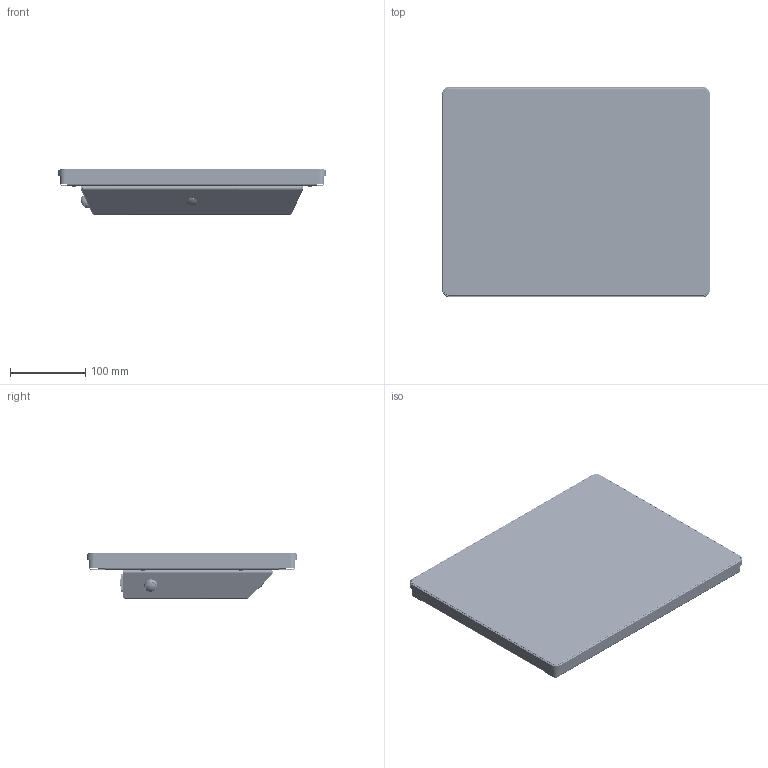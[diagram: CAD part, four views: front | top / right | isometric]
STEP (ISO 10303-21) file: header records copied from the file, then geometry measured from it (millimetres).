
FILE_DESCRIPTION (( 'STEP AP203' ), '1' );
FILE_NAME ('V150S-00 Panel PC.STEP', '2026-07-31T08:47:37', ( '' ), ( '' ), 'SwSTEP 2.0', 'SolidWorks 2025', '' );
FILE_SCHEMA (( 'CONFIG_CONTROL_DESIGN' ));
Length unit declared in the file: millimetre
Products named in the file (31): 220V IEC snap-in input socket 539-2017; SSD-02 Bracket hoog; V-serie - M3 x 4 - Z --- 3N_DIN 967 - M3 x 4 - Z --- 3N; TEST BS-M4-8 RVS blinde inpersafstandsteun; FH-M4-12-ZI Inpersdraadeind; SO-3,5M3-6-ZI Inpersafstandsteun; Meanwell IRM-90-12ST; V-UNIS-01 Backcover assembly_ALN35; V-UNI-ALN35 Connector panel; ITW 59111_button; S150S-10 Bezel; Part3^V150S-00 Assembly; FH4-M3-12 Inpersdraadeind; CMI G150XNE-L03; Celrubber 2x6^V150S-00 Assembly; ALN35-10 Heatspreader; V150S-11 Montagestrip; ITW 59111; ALN35-Without_heatsink; ITW 59111_locknut; EG-15-319-0403V1; ALN-35 met heatspreader; 2.5'''' HDD; V-UNIS-10 Backcover; V150S-00 Panel PC; V150S-10 Behuizing; Afdekkap 12mm; RS232_panelmount_RS 446-462; ITW 59111_ring
Assembly tree (50 placements, depth 4):
  V150S-00 Panel PC
    V150S-10 Behuizing
    V150S-11 Montagestrip  x2
      V150S-11 Montagestrip
      SO-3,5M3-6-ZI Inpersafstandsteun
    EG-15-319-0403V1
    S150S-10 Bezel
    CMI G150XNE-L03
    V-UNIS-01 Backcover assembly_ALN35
      V-UNIS-10 Backcover
        V-UNIS-10 Backcover
        TEST BS-M4-8 RVS blinde inpersafstandsteun  x4
        FH-M4-12-ZI Inpersdraadeind  x8
        FH4-M3-12 Inpersdraadeind  x4
      Meanwell IRM-90-12ST
      ITW 59111
        ITW 59111_button
        ITW 59111_ring
        ITW 59111_locknut
      220V IEC snap-in input socket 539-2017
      RS232_panelmount_RS 446-462  x2
      ALN-35 met heatspreader
        ALN35-10 Heatspreader
        ALN35-Without_heatsink
      SSD-02 Bracket hoog
      2.5'''' HDD
      V-UNI-ALN35 Connector panel
      Afdekkap 12mm
    Celrubber 2x6^V150S-00 Assembly
    Afdekkap 12mm
    V-serie - M3 x 4 - Z --- 3N_DIN 967 - M3 x 4 - Z --- 3N  x4
    Part3^V150S-00 Assembly
Bounding box: 356 x 280 x 60.86 mm (x, y, z)
Volume: 1775336.7 mm3; surface area: 1005775 mm2
Topology: 49 solids, 313 shells, 5291 faces, 24513 edges, 19171 vertices
Faces by surface type: plane 3404, cylinder 1363, bspline 319, cone 107, torus 78, sphere 20
Full cylindrical faces by diameter (mm): 0.92 x18, 1.397 x2, 1.8 x3, 2.5 x27, 3 x12, 3.05 x4, 3.2 x6, 3.4 x8, 3.5 x42, 4 x16, 4.1 x8, 4.5 x4, 4.6 x4, 5 x1, 5.2 x5, 5.4 x4, 5.49 x4, 5.5 x4, 5.9 x8, 7.1 x4, 7.22 x4, 9 x1, 11 x1, 11.43 x1, 12 x3, 13.5 x2, 13.9 x1, 14.605 x1, 17.526 x1
Entity records: 271521 total; most frequent: CARTESIAN_POINT 95090, ORIENTED_EDGE 32863, DIRECTION 30568, EDGE_CURVE 23421, VERTEX_POINT 18579, LINE 13578, VECTOR 13578, AXIS2_PLACEMENT_3D 8495
